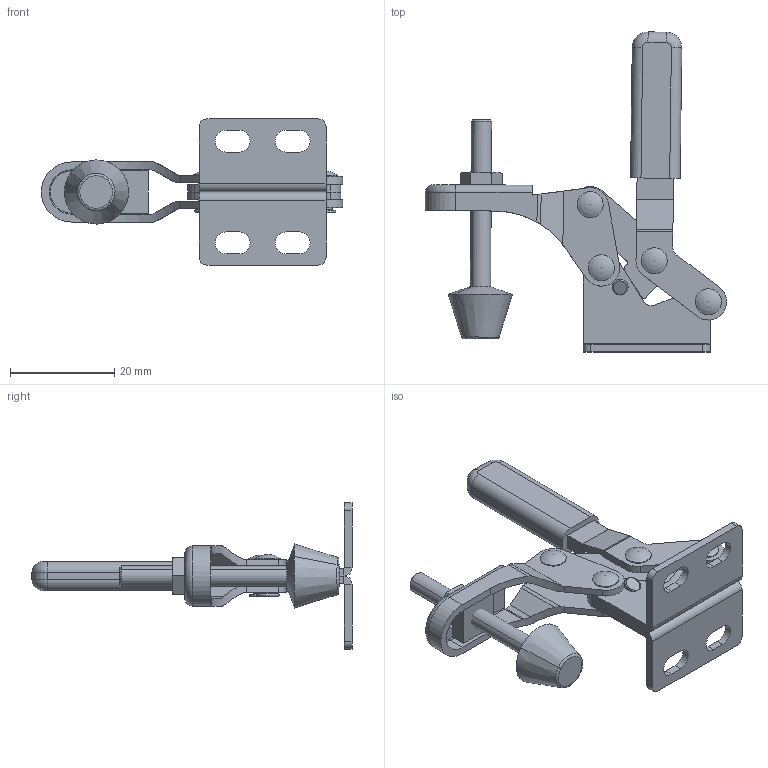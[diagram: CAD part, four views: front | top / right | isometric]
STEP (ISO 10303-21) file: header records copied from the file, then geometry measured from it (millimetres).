
FILE_DESCRIPTION (( 'STEP AP214' ), '1' );
FILE_NAME ('ISK-090.STEP', '2015-07-07T11:46:19', ( '' ), ( '' ), 'SwSTEP 2.0', 'SolidWorks 2015', '' );
FILE_SCHEMA (( 'AUTOMOTIVE_DESIGN' ));
Length unit declared in the file: millimetre
Products named in the file (10): Link; Handle; Arm; Base; ISK-090; hexagon nut_3_jis_JIS B 1181 Hexagon nut - Class 3 Finished M4 --N; Revet_兂3亊6; Rubber bolt_M4×30; SquareNut M4; Grip
Assembly tree (13 placements, depth 2):
  ISK-090
    Base
    Arm
    Handle
    Link  x2
    Grip
    SquareNut M4
    Rubber bolt_M4×30
    Revet_兂3亊6  x4
    hexagon nut_3_jis_JIS B 1181 Hexagon nut - Class 3 Finished M4 --N
Bounding box: 57.73 x 61.32 x 28 mm (x, y, z)
Volume: 6792.5 mm3; surface area: 10411 mm2
Topology: 15 solids, 15 shells, 363 faces, 876 edges, 547 vertices
Faces by surface type: cylinder 154, plane 152, torus 28, cone 22, sphere 4, bspline 3
Entity records: 9776 total; most frequent: CARTESIAN_POINT 1814, DIRECTION 1655, ORIENTED_EDGE 1508, EDGE_CURVE 754, AXIS2_PLACEMENT_3D 625, VERTEX_POINT 469, VECTOR 405, LINE 405
